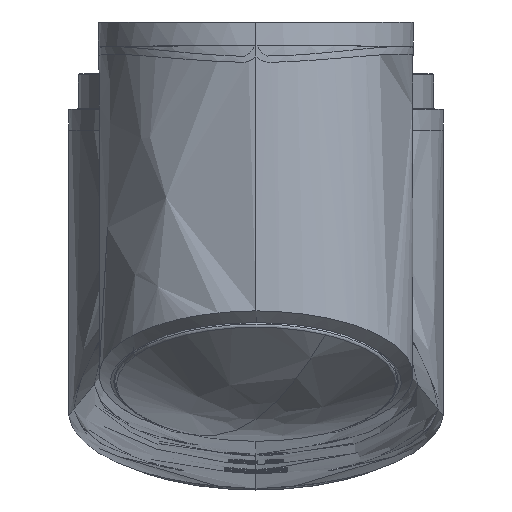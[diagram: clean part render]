
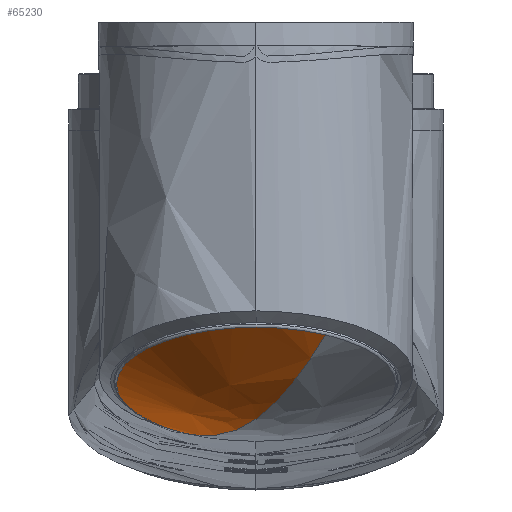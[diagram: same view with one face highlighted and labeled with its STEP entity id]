
A CAD part, top view. The second image highlights one B-rep face of the part: STEP entity #65230.
In plain terms, the highlighted free-form (B-spline) face has degree [2, 3] with [3, 4] control points.
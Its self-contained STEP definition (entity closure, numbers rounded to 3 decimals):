
#644 = CARTESIAN_POINT ( 'NONE',  ( 213.341, -208.42, 1361.088 ) ) ;
#2583 = ORIENTED_EDGE ( 'NONE', *, *, #47708, .F. ) ;
#4810 = AXIS2_PLACEMENT_3D ( 'NONE', #44159, #32226, #14515 ) ;
#5636 = CARTESIAN_POINT ( 'NONE',  ( 180.005, -248.611, 1315.77 ) ) ;
#5877 = DIRECTION ( 'NONE',  ( -0.866, 0.203, 0.457 ) ) ;
#6374 =( BOUNDED_SURFACE ( )  B_SPLINE_SURFACE ( 2, 3, ( 
 ( #17965, #5636, #46472, #35301 ),
 ( #69591, #29127, #64944, #29885 ),
 ( #23721, #52636, #30260, #644 ) ),
 .UNSPECIFIED., .F., .F., .F. ) 
 B_SPLINE_SURFACE_WITH_KNOTS ( ( 3, 3 ),
 ( 4, 4 ),
 ( 0., 0.956 ),
 ( 0., 1. ),
 .UNSPECIFIED. ) 
 GEOMETRIC_REPRESENTATION_ITEM ( )  RATIONAL_B_SPLINE_SURFACE ( (
 ( 1., 0.333, 0.333, 1.),
 ( 1., 0.333, 0.333, 1.),
 ( 1., 0.333, 0.333, 1.) ) ) 
 REPRESENTATION_ITEM ( '' )  SURFACE ( )  );
#6601 = CARTESIAN_POINT ( 'NONE',  ( 180.005, -248.611, 1315.77 ) ) ;
#6692 = B_SPLINE_CURVE_WITH_KNOTS ( 'NONE', 2,
 ( #13335, #53033, #6796 ),
 .UNSPECIFIED., .F., .F.,
 ( 3, 3 ),
 ( 0., 0.956 ),
 .UNSPECIFIED. ) ;
#6796 = CARTESIAN_POINT ( 'NONE',  ( 213.341, -208.42, 1361.088 ) ) ;
#7307 = AXIS2_PLACEMENT_3D ( 'NONE', #12813, #65947, #5877 ) ;
#10312 = B_SPLINE_CURVE_WITH_KNOTS ( 'NONE', 2,
 ( #44522, #15625, #56092 ),
 .UNSPECIFIED., .F., .F.,
 ( 3, 3 ),
 ( 0., 0.956 ),
 .UNSPECIFIED. ) ;
#10707 = VERTEX_POINT ( 'NONE', #32454 ) ;
#12813 = CARTESIAN_POINT ( 'NONE',  ( 180.005, -231.908, 1308.334 ) ) ;
#13335 = CARTESIAN_POINT ( 'NONE',  ( 180.005, -248.611, 1315.77 ) ) ;
#14515 = DIRECTION ( 'NONE',  ( -0.866, 0.203, 0.457 ) ) ;
#15625 = CARTESIAN_POINT ( 'NONE',  ( 164.709, -259.389, 1291.563 ) ) ;
#16214 = CARTESIAN_POINT ( 'NONE',  ( 122.259, -218.349, 1338.787 ) ) ;
#17591 = FACE_OUTER_BOUND ( 'NONE', #61577, .T. ) ;
#17965 = CARTESIAN_POINT ( 'NONE',  ( 180.005, -248.611, 1315.77 ) ) ;
#18976 = VERTEX_POINT ( 'NONE', #16214 ) ;
#22181 = ORIENTED_EDGE ( 'NONE', *, *, #45953, .T. ) ;
#23721 = CARTESIAN_POINT ( 'NONE',  ( 146.67, -255.396, 1255.579 ) ) ;
#29127 = CARTESIAN_POINT ( 'NONE',  ( 111.712, -246.946, 1319.511 ) ) ;
#29885 = CARTESIAN_POINT ( 'NONE',  ( 195.302, -237.833, 1339.978 ) ) ;
#30260 = CARTESIAN_POINT ( 'NONE',  ( 97.847, -181.302, 1421.995 ) ) ;
#32226 = DIRECTION ( 'NONE',  ( 0., -0.914, 0.407 ) ) ;
#32454 = CARTESIAN_POINT ( 'NONE',  ( 146.67, -255.396, 1255.579 ) ) ;
#35301 = CARTESIAN_POINT ( 'NONE',  ( 180.005, -248.611, 1315.77 ) ) ;
#38037 = CIRCLE ( 'NONE', #7307, 66.678 ) ;
#39571 = CARTESIAN_POINT ( 'NONE',  ( 213.341, -208.42, 1361.088 ) ) ;
#42415 = EDGE_CURVE ( 'NONE', #50788, #55435, #6692, .T. ) ;
#44159 = CARTESIAN_POINT ( 'NONE',  ( 180.005, -231.908, 1308.334 ) ) ;
#44522 = CARTESIAN_POINT ( 'NONE',  ( 180.005, -248.611, 1315.77 ) ) ;
#45953 = EDGE_CURVE ( 'NONE', #18976, #10707, #74909, .T. ) ;
#46472 = CARTESIAN_POINT ( 'NONE',  ( 180.005, -248.611, 1315.77 ) ) ;
#47708 = EDGE_CURVE ( 'NONE', #50788, #10707, #10312, .T. ) ;
#47866 = ORIENTED_EDGE ( 'NONE', *, *, #42415, .T. ) ;
#48341 = ORIENTED_EDGE ( 'NONE', *, *, #73968, .T. ) ;
#50788 = VERTEX_POINT ( 'NONE', #6601 ) ;
#52636 = CARTESIAN_POINT ( 'NONE',  ( 31.176, -228.278, 1316.486 ) ) ;
#53033 = CARTESIAN_POINT ( 'NONE',  ( 195.302, -237.833, 1339.978 ) ) ;
#55435 = VERTEX_POINT ( 'NONE', #39571 ) ;
#56092 = CARTESIAN_POINT ( 'NONE',  ( 146.67, -255.396, 1255.579 ) ) ;
#61577 = EDGE_LOOP ( 'NONE', ( #2583, #47866, #48341, #22181 ) ) ;
#64944 = CARTESIAN_POINT ( 'NONE',  ( 142.306, -225.39, 1367.926 ) ) ;
#65230 = ADVANCED_FACE ( 'NONE', ( #17591 ), #6374, .F. ) ;
#65947 = DIRECTION ( 'NONE',  ( 0., -0.914, 0.407 ) ) ;
#69591 = CARTESIAN_POINT ( 'NONE',  ( 164.709, -259.389, 1291.563 ) ) ;
#73968 = EDGE_CURVE ( 'NONE', #55435, #18976, #38037, .T. ) ;
#74909 = CIRCLE ( 'NONE', #4810, 66.678 ) ;
